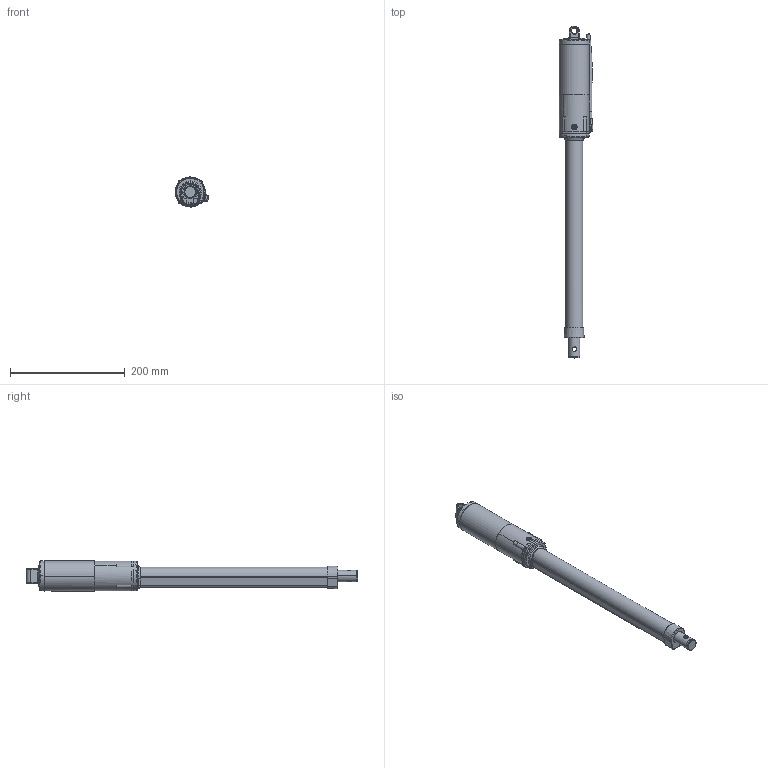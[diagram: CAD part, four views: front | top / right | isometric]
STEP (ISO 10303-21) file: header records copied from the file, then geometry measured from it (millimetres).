
FILE_DESCRIPTION((''),' ');
FILE_NAME('dszy30-300.stp',' ',('R.'),('L.'),' ','ACIS 14.0',' ');
FILE_SCHEMA(('automotive_design'));
Length unit declared in the file: inch
Products named in the file (1526): DSZY30_ASM_ASM; A1LD100020_ASM_ASM
Bounding box: 58.62 x 579.8 x 52.5 mm (x, y, z)
Surface area: 234541.2 mm2 (no closed solid volume)
Topology: 0 solids, 1772 shells, 1772 faces, 9072 edges, 9065 vertices
Faces by surface type: plane 686, cylinder 636, cone 194, torus 189, bspline 59, sphere 8
Entity records: 155506 total; most frequent: CARTESIAN_POINT 33206, DIRECTION 18210, ORIENTED_EDGE 9067, EDGE_CURVE 9067, VERTEX_POINT 9067, AXIS2_PLACEMENT_3D 6924, LINE 4362, VECTOR 4362
